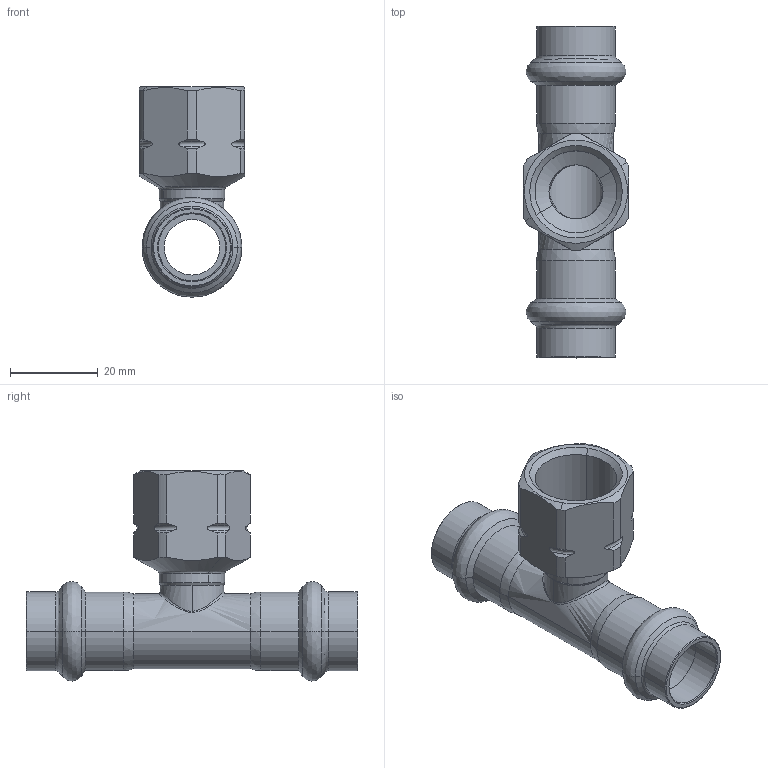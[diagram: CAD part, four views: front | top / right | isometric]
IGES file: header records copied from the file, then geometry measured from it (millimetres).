
Start section: Elysium IGES Interface
Global section: file name: C:\3d modellen sudo\C-Pr VP\SP8130GV\8130GVW151215.igs; native system: CoCreate Modeling 17.00A  17-Jun-2010; preprocessor: CoCreate IGES_3D V2.2; author: Unknown; organization: Unknown; date: 20130131.151855; units: millimetre
Bounding box: 24 x 75.51 x 47.84 mm (x, y, z)
Volume: 11654 mm3; surface area: 12224.3 mm2
Topology: 1 solids, 1 shells, 138 faces, 323 edges, 193 vertices
Faces by surface type: bspline 138
